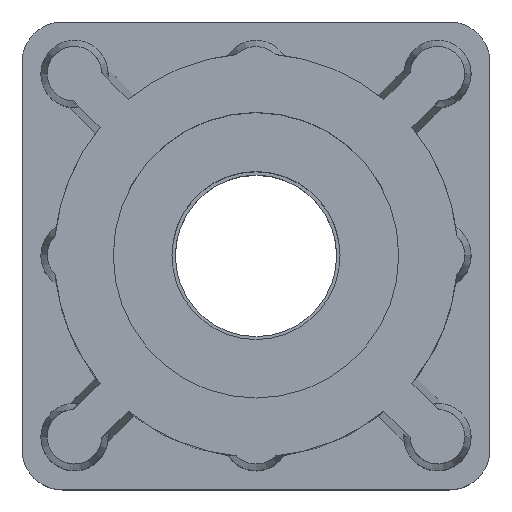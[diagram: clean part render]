
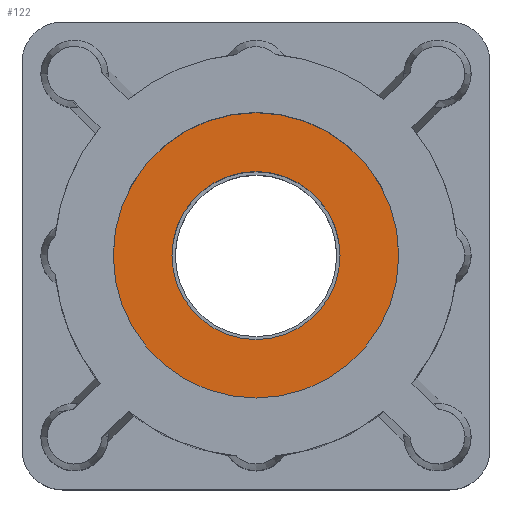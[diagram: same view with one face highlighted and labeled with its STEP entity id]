
A CAD part, top view. The second image highlights one B-rep face of the part: STEP entity #122.
In plain terms, the highlighted planar face has unit normal (0, 0, 1).
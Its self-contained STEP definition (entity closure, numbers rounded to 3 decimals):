
#40 = ORIENTED_EDGE ( 'NONE', *, *, #2165, .T. ) ;
#48 = AXIS2_PLACEMENT_3D ( 'NONE', #672, #2814, #2083 ) ;
#122 = ADVANCED_FACE ( 'NONE', ( #1805, #1876 ), #522, .T. ) ;
#173 = AXIS2_PLACEMENT_3D ( 'NONE', #567, #1514, #1780 ) ;
#324 = DIRECTION ( 'NONE',  ( 0., 0., 1. ) ) ;
#415 = CIRCLE ( 'NONE', #48, 6.25 ) ;
#522 = PLANE ( 'NONE',  #2141 ) ;
#552 = DIRECTION ( 'NONE',  ( 0., 0., 1. ) ) ;
#567 = CARTESIAN_POINT ( 'NONE',  ( -156.341, 236.703, 17.75 ) ) ;
#672 = CARTESIAN_POINT ( 'NONE',  ( -156.341, 236.703, 17.75 ) ) ;
#795 = EDGE_LOOP ( 'NONE', ( #1531, #1886 ) ) ;
#1189 = CIRCLE ( 'NONE', #1836, 6.25 ) ;
#1210 = EDGE_LOOP ( 'NONE', ( #40, #2591 ) ) ;
#1295 = CARTESIAN_POINT ( 'NONE',  ( -150.091, 236.703, 17.75 ) ) ;
#1514 = DIRECTION ( 'NONE',  ( 0., 0., 1. ) ) ;
#1531 = ORIENTED_EDGE ( 'NONE', *, *, #2983, .F. ) ;
#1745 = CARTESIAN_POINT ( 'NONE',  ( -156.341, 236.703, 17.75 ) ) ;
#1780 = DIRECTION ( 'NONE',  ( 1., 0., 0. ) ) ;
#1805 = FACE_OUTER_BOUND ( 'NONE', #1210, .T. ) ;
#1836 = AXIS2_PLACEMENT_3D ( 'NONE', #1745, #324, #1996 ) ;
#1844 = DIRECTION ( 'NONE',  ( 0., 0., 1. ) ) ;
#1846 = VERTEX_POINT ( 'NONE', #2188 ) ;
#1876 = FACE_BOUND ( 'NONE', #795, .T. ) ;
#1883 = EDGE_CURVE ( 'NONE', #2511, #1846, #1189, .T. ) ;
#1886 = ORIENTED_EDGE ( 'NONE', *, *, #1883, .F. ) ;
#1944 = VERTEX_POINT ( 'NONE', #2091 ) ;
#1996 = DIRECTION ( 'NONE',  ( 1., 0., 0. ) ) ;
#2083 = DIRECTION ( 'NONE',  ( 1., 0., 0. ) ) ;
#2091 = CARTESIAN_POINT ( 'NONE',  ( -145.72, 236.703, 17.75 ) ) ;
#2095 = VERTEX_POINT ( 'NONE', #2784 ) ;
#2141 = AXIS2_PLACEMENT_3D ( 'NONE', #2930, #552, #2219 ) ;
#2165 = EDGE_CURVE ( 'NONE', #2095, #1944, #3066, .T. ) ;
#2188 = CARTESIAN_POINT ( 'NONE',  ( -162.591, 236.703, 17.75 ) ) ;
#2219 = DIRECTION ( 'NONE',  ( 1., 0., 0. ) ) ;
#2389 = AXIS2_PLACEMENT_3D ( 'NONE', #2546, #1844, #3062 ) ;
#2446 = EDGE_CURVE ( 'NONE', #1944, #2095, #2635, .T. ) ;
#2511 = VERTEX_POINT ( 'NONE', #1295 ) ;
#2546 = CARTESIAN_POINT ( 'NONE',  ( -156.341, 236.703, 17.75 ) ) ;
#2591 = ORIENTED_EDGE ( 'NONE', *, *, #2446, .T. ) ;
#2635 = CIRCLE ( 'NONE', #173, 10.621 ) ;
#2784 = CARTESIAN_POINT ( 'NONE',  ( -166.962, 236.703, 17.75 ) ) ;
#2814 = DIRECTION ( 'NONE',  ( 0., 0., 1. ) ) ;
#2930 = CARTESIAN_POINT ( 'NONE',  ( -156.341, 236.703, 17.75 ) ) ;
#2983 = EDGE_CURVE ( 'NONE', #1846, #2511, #415, .T. ) ;
#3062 = DIRECTION ( 'NONE',  ( 1., 0., 0. ) ) ;
#3066 = CIRCLE ( 'NONE', #2389, 10.621 ) ;
